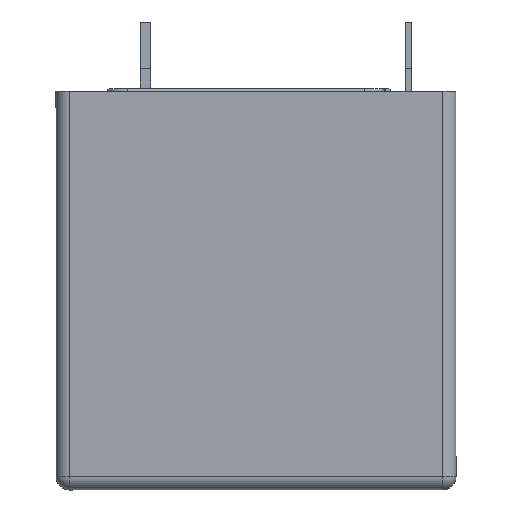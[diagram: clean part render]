
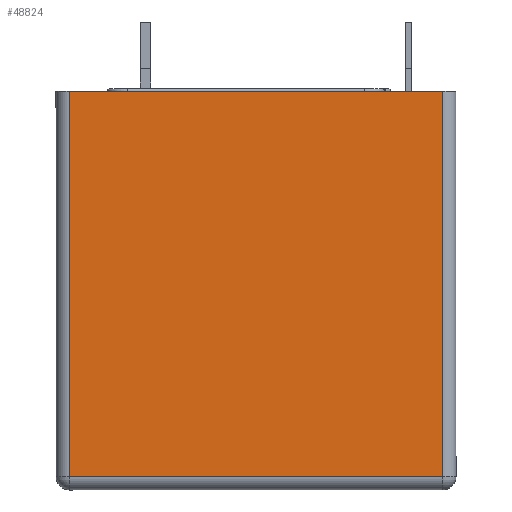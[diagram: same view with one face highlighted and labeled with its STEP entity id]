
A CAD part, left-side view. The second image highlights one B-rep face of the part: STEP entity #48824.
In plain terms, the highlighted planar face has unit normal (-1, 0, 0).
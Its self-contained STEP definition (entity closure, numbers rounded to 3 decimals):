
#101 = VECTOR ( 'NONE', #27956, 1000. ) ;
#1498 = LINE ( 'NONE', #5005, #101 ) ;
#5005 = CARTESIAN_POINT ( 'NONE',  ( -17.989, 22.179, -7.643 ) ) ;
#6953 = VECTOR ( 'NONE', #47744, 1000. ) ;
#7043 = LINE ( 'NONE', #50960, #19224 ) ;
#7187 = EDGE_CURVE ( 'NONE', #21827, #8465, #7043, .T. ) ;
#8465 = VERTEX_POINT ( 'NONE', #19756 ) ;
#11883 = EDGE_CURVE ( 'NONE', #19515, #21827, #1498, .T. ) ;
#12915 = DIRECTION ( 'NONE',  ( 0., -1., 0. ) ) ;
#13990 = CARTESIAN_POINT ( 'NONE',  ( -17.989, 22.179, 21.257 ) ) ;
#15500 = FACE_OUTER_BOUND ( 'NONE', #16757, .T. ) ;
#16342 = CARTESIAN_POINT ( 'NONE',  ( -17.989, 21.179, -7.643 ) ) ;
#16757 = EDGE_LOOP ( 'NONE', ( #49111, #22042, #17764, #17477 ) ) ;
#17477 = ORIENTED_EDGE ( 'NONE', *, *, #17602, .F. ) ;
#17602 = EDGE_CURVE ( 'NONE', #40170, #8465, #32457, .T. ) ;
#17764 = ORIENTED_EDGE ( 'NONE', *, *, #7187, .T. ) ;
#18584 = DIRECTION ( 'NONE',  ( 0., 0., -1. ) ) ;
#18957 = DIRECTION ( 'NONE',  ( 0., 0., 1. ) ) ;
#19224 = VECTOR ( 'NONE', #18957, 1000. ) ;
#19515 = VERTEX_POINT ( 'NONE', #16342 ) ;
#19756 = CARTESIAN_POINT ( 'NONE',  ( -17.989, -6.821, 21.257 ) ) ;
#20542 = LINE ( 'NONE', #24751, #6953 ) ;
#21827 = VERTEX_POINT ( 'NONE', #41970 ) ;
#22042 = ORIENTED_EDGE ( 'NONE', *, *, #11883, .T. ) ;
#24751 = CARTESIAN_POINT ( 'NONE',  ( -17.989, 21.179, 21.257 ) ) ;
#25255 = CARTESIAN_POINT ( 'NONE',  ( -17.989, 21.179, 21.257 ) ) ;
#26146 = EDGE_CURVE ( 'NONE', #40170, #19515, #20542, .T. ) ;
#27585 = PLANE ( 'NONE',  #52558 ) ;
#27956 = DIRECTION ( 'NONE',  ( 0., -1., 0. ) ) ;
#32457 = LINE ( 'NONE', #35775, #55329 ) ;
#35775 = CARTESIAN_POINT ( 'NONE',  ( -17.989, 7.179, 21.257 ) ) ;
#40170 = VERTEX_POINT ( 'NONE', #25255 ) ;
#41970 = CARTESIAN_POINT ( 'NONE',  ( -17.989, -6.821, -7.643 ) ) ;
#46049 = DIRECTION ( 'NONE',  ( 1., 0., 0. ) ) ;
#47744 = DIRECTION ( 'NONE',  ( 0., 0., -1. ) ) ;
#48824 = ADVANCED_FACE ( 'NONE', ( #15500 ), #27585, .F. ) ;
#49111 = ORIENTED_EDGE ( 'NONE', *, *, #26146, .T. ) ;
#50960 = CARTESIAN_POINT ( 'NONE',  ( -17.989, -6.821, 21.257 ) ) ;
#52558 = AXIS2_PLACEMENT_3D ( 'NONE', #13990, #46049, #18584 ) ;
#55329 = VECTOR ( 'NONE', #12915, 1000. ) ;
